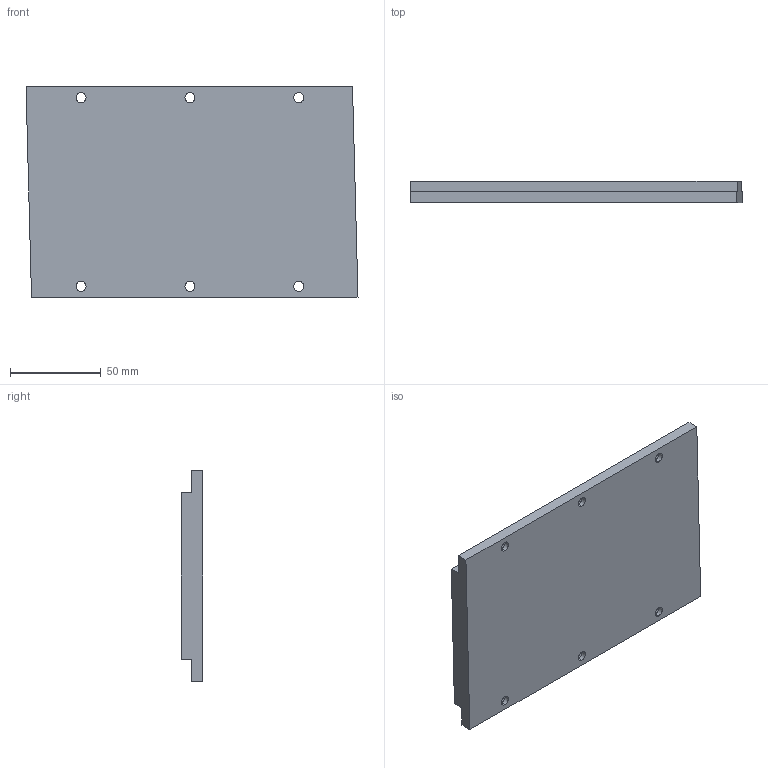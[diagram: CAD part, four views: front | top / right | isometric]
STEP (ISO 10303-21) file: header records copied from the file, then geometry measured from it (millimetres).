
FILE_DESCRIPTION (( 'STEP AP214' ), '1' );
FILE_NAME ('LMSA3S2E.STEP', '2013-07-30T02:20:43', ( 'user' ), ( '' ), 'SwSTEP 2.0', 'SolidWorks 2010', '' );
FILE_SCHEMA (( 'AUTOMOTIVE_DESIGN' ));
Length unit declared in the file: millimetre
Products named in the file (1): LMSA3S2E
Bounding box: 183.04 x 11.7 x 116 mm (x, y, z)
Volume: 218082.8 mm3; surface area: 49067.5 mm2
Topology: 1 solids, 1 shells, 67 faces, 171 edges, 114 vertices
Faces by surface type: plane 32, cylinder 24, bspline 11
Entity records: 2881 total; most frequent: CARTESIAN_POINT 1220, ORIENTED_EDGE 342, DIRECTION 311, EDGE_CURVE 171, VERTEX_POINT 114, AXIS2_PLACEMENT_3D 105, LINE 101, VECTOR 101
